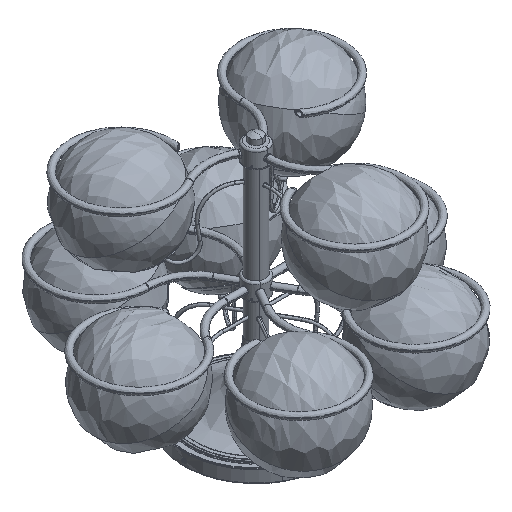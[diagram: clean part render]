
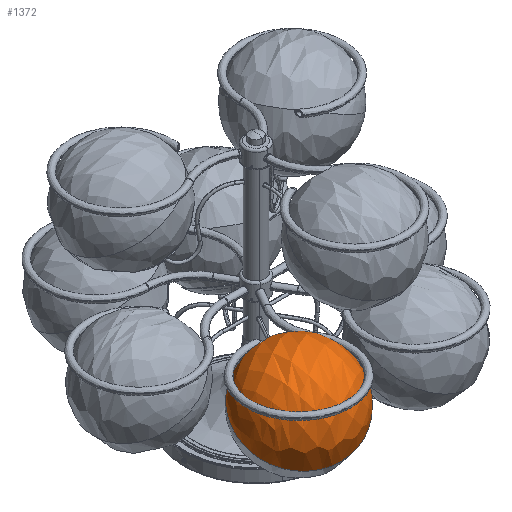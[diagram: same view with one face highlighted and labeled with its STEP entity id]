
A CAD part, isometric view. The second image highlights one B-rep face of the part: STEP entity #1372.
In plain terms, the highlighted free-form (B-spline) face has degree [2, 2] with [5, 5] control points.
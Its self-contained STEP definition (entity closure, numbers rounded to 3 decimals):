
#1372=ADVANCED_FACE('',(#2344),#14435,.T.);
#2344=FACE_OUTER_BOUND('',#3399,.T.);
#3399=EDGE_LOOP('',(#6050,#6051));
#6050=ORIENTED_EDGE('',*,*,#9324,.T.);
#6051=ORIENTED_EDGE('',*,*,#9323,.T.);
#9323=EDGE_CURVE('',#13250,#13249,#11971,.T.);
#9324=EDGE_CURVE('',#13249,#13250,#11972,.T.);
#11971=(
BOUNDED_CURVE()
B_SPLINE_CURVE(2,(#27965,#27966,#27967,#27968,#27969),.UNSPECIFIED.,.F.,
 .F.)
B_SPLINE_CURVE_WITH_KNOTS((3,2,3),(-600.,-300.,0.),.UNSPECIFIED.)
CURVE()
GEOMETRIC_REPRESENTATION_ITEM()
RATIONAL_B_SPLINE_CURVE((1.,0.707,1.,0.707,1.))
REPRESENTATION_ITEM('')
);
#11972=(
BOUNDED_CURVE()
B_SPLINE_CURVE(2,(#27970,#27971,#27972,#27973,#27974),.UNSPECIFIED.,.F.,
 .F.)
B_SPLINE_CURVE_WITH_KNOTS((3,2,3),(0.,157.08,314.159),
 .UNSPECIFIED.)
CURVE()
GEOMETRIC_REPRESENTATION_ITEM()
RATIONAL_B_SPLINE_CURVE((1.,0.707,1.,0.707,1.))
REPRESENTATION_ITEM('')
);
#13249=VERTEX_POINT('',#27947);
#13250=VERTEX_POINT('',#27948);
#14435=(
BOUNDED_SURFACE()
B_SPLINE_SURFACE(2,2,((#27867,#27868,#27869,#27870,#27871),(#27872,#27873,
#27874,#27875,#27876),(#27877,#27878,#27879,#27880,#27881),(#27882,#27883,
#27884,#27885,#27886),(#27887,#27888,#27889,#27890,#27891)),
 .UNSPECIFIED.,.F.,.F.,.F.)
B_SPLINE_SURFACE_WITH_KNOTS((3,2,3),(3,2,3),(0.,300.,600.),(0.,167.968,
476.165),.UNSPECIFIED.)
GEOMETRIC_REPRESENTATION_ITEM()
RATIONAL_B_SPLINE_SURFACE(((0.752,0.727,1.,0.5,
1.),(0.532,0.514,0.707,0.354,
0.707),(0.752,0.727,1.,0.5,1.),(0.532,
0.514,0.707,0.354,0.707),
(0.752,0.727,1.,0.5,1.)))
REPRESENTATION_ITEM('')
SURFACE()
);
#27867=CARTESIAN_POINT('',(-198.761,-144.255,187.146));
#27868=CARTESIAN_POINT('',(-198.761,-144.255,187.146));
#27869=CARTESIAN_POINT('',(-198.761,-144.255,187.146));
#27870=CARTESIAN_POINT('',(-198.761,-144.255,187.146));
#27871=CARTESIAN_POINT('',(-198.761,-144.255,187.146));
#27872=CARTESIAN_POINT('',(-239.238,-214.363,128.44));
#27873=CARTESIAN_POINT('',(-258.282,-247.348,180.961));
#27874=CARTESIAN_POINT('',(-242.062,-219.255,237.146));
#27875=CARTESIAN_POINT('',(-198.761,-144.255,387.146));
#27876=CARTESIAN_POINT('',(-155.46,-69.255,237.146));
#27877=CARTESIAN_POINT('',(-152.636,-264.363,128.44));
#27878=CARTESIAN_POINT('',(-171.679,-297.348,180.961));
#27879=CARTESIAN_POINT('',(-155.46,-269.255,237.146));
#27880=CARTESIAN_POINT('',(-112.159,-194.255,387.146));
#27881=CARTESIAN_POINT('',(-68.857,-119.255,237.146));
#27882=CARTESIAN_POINT('',(-66.033,-314.363,128.44));
#27883=CARTESIAN_POINT('',(-85.077,-347.348,180.961));
#27884=CARTESIAN_POINT('',(-68.857,-319.255,237.146));
#27885=CARTESIAN_POINT('',(-25.556,-244.255,387.146));
#27886=CARTESIAN_POINT('',(17.745,-169.255,237.146));
#27887=CARTESIAN_POINT('',(-25.556,-244.255,187.146));
#27888=CARTESIAN_POINT('',(-25.556,-244.255,187.146));
#27889=CARTESIAN_POINT('',(-25.556,-244.255,187.146));
#27890=CARTESIAN_POINT('',(-25.556,-244.255,187.146));
#27891=CARTESIAN_POINT('',(-25.556,-244.255,187.146));
#27947=CARTESIAN_POINT('',(-198.761,-144.255,187.146));
#27948=CARTESIAN_POINT('',(-25.556,-244.255,187.146));
#27965=CARTESIAN_POINT('',(-25.556,-244.255,187.146));
#27966=CARTESIAN_POINT('',(17.745,-169.255,237.146));
#27967=CARTESIAN_POINT('',(-68.857,-119.255,237.146));
#27968=CARTESIAN_POINT('',(-155.46,-69.255,237.146));
#27969=CARTESIAN_POINT('',(-198.761,-144.255,187.146));
#27970=CARTESIAN_POINT('',(-198.761,-144.255,187.146));
#27971=CARTESIAN_POINT('',(-242.062,-219.255,137.146));
#27972=CARTESIAN_POINT('',(-155.46,-269.255,137.146));
#27973=CARTESIAN_POINT('',(-68.857,-319.255,137.146));
#27974=CARTESIAN_POINT('',(-25.556,-244.255,187.146));
